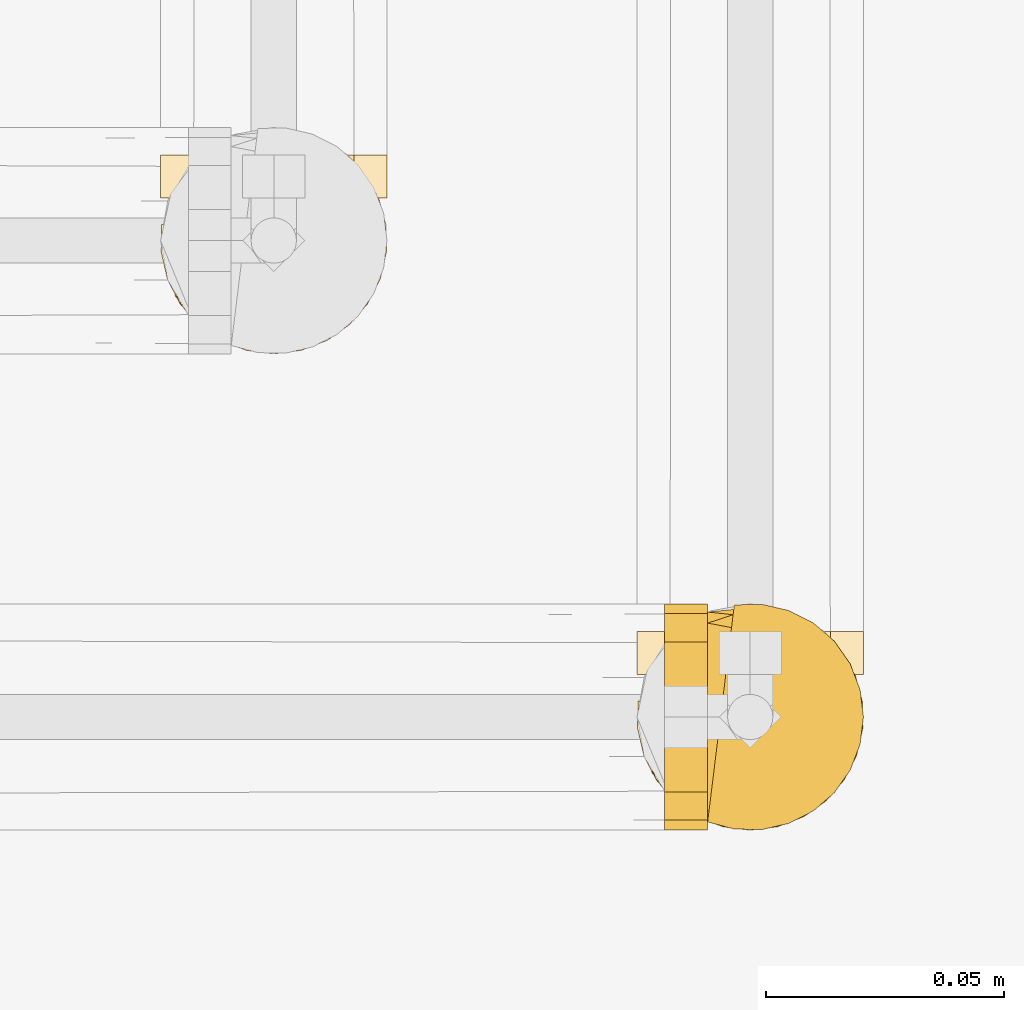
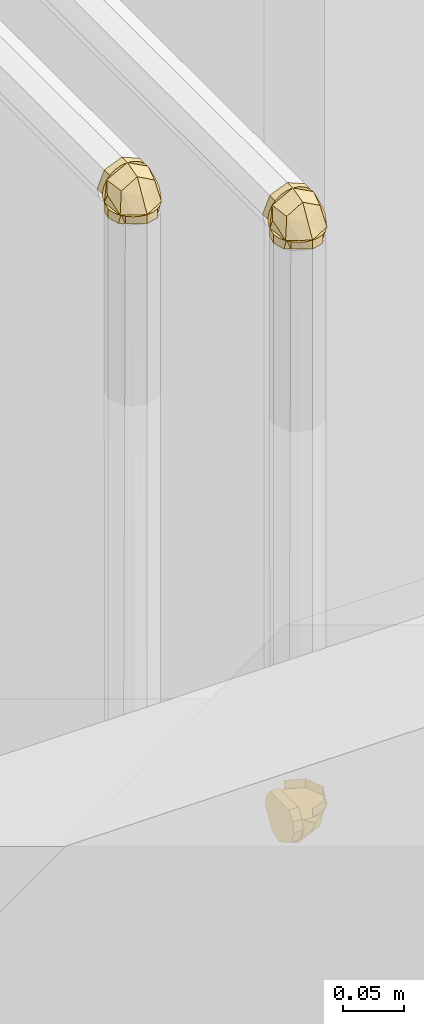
# One storey, part 330 of 652: 3 coverings.
"""IFC2X3 building model written with IfcOpenShell, lengths in millimetres."""

from ifc_helpers import new_model, entity, si_unit, converted_unit, direction, frame, origin, place, context, subcontext, project, spatial, face_set, surface_model, material, type_object, element, save


model = new_model("IFC2X3")

# Units and contexts
model_context = context("Model", 3, precision=0.01, world=frame((0.0, 0.0, 308426.39999999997)), true_north=direction((6.123233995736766e-17, 1.0)))
plan_context = context("Plan", 3, precision=0.01, world=frame((0.0, 0.0, 308426.39999999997)), true_north=direction((6.123233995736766e-17, 1.0)))
body_context = subcontext(model_context, "Body", "Model", "MODEL_VIEW")
ifc_project = project(units=[si_unit("LENGTHUNIT", "METRE", prefix="MILLI"), si_unit("AREAUNIT", "SQUARE_METRE"), si_unit("VOLUMEUNIT", "CUBIC_METRE"), converted_unit("PLANEANGLEUNIT", "DEGREE", entity("IfcPlaneAngleMeasure", 0.017453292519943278), si_unit("PLANEANGLEUNIT", "RADIAN"), dimensions=[0, 0, 0, 0, 0, 0, 0])], contexts=[model_context, plan_context])

# Site, building, storey
site_placement = place(None, origin())
site = spatial("IfcSite", under=ifc_project, at=site_placement, Name="Default", CompositionType="ELEMENT")
building_placement = place(site_placement, origin())
building = spatial("IfcBuilding", under=site, at=building_placement, CompositionType="ELEMENT")
storey_placement = place(building_placement, frame((0.0, 0.0, 1730.6999999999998)))
storey = spatial("IfcBuildingStorey", under=building, at=storey_placement, Name="EG_Produktion_FFB", CompositionType="ELEMENT", Elevation=1730.6999999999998)

# Coverings
ifc_material = material(Name="Dämmung - Armaflex-Schlauch")
covering_type = type_object("IfcCoveringType", Name="Rohrdämmung außen:Armaflex-Schlauch", PredefinedType="INSULATION")
covering_1_placement = place(storey_placement, frame((29504.64222776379, 58869.929318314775, 3280.611079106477)))
element("IfcCovering", 1, at=covering_1_placement, inside=storey, type_object=covering_type, material=ifc_material, Name="Rohrdämmung außen:Armaflex-Schlauch", ObjectType="Rohrdämmung außen:Armaflex-Schlauch", PredefinedType="INSULATION", context=body_context, shape_type="SurfaceModel", body=[
    surface_model("IfcFaceBasedSurfaceModel", [(3.3372686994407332, 34.28827223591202, 10.458420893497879), (48.885203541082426, 34.28827223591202, 16.054796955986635), (48.99253247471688, 34.28827223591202, 21.84951324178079), (47.69387779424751, 34.28827223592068, 27.4978539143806), (45.06649381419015, 34.28827223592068, 32.66381072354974), (41.26667824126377, 34.28827223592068, 37.04007144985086), (36.520474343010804, 34.28827223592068, 40.3663012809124), (31.11022409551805, 34.28827223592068, 42.444629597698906), (25.357772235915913, 34.28827223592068, 43.15142089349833), (19.605320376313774, 34.28827223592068, 42.444629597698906), (14.19507012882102, 34.28827223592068, 40.3663012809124), (9.448866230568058, 34.28827223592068, 37.04007144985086), (5.649050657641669, 34.28827223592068, 32.66381072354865), (3.0216666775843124, 34.28827223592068, 27.497853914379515), (1.7230119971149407, 34.28827223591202, 21.84951324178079), (1.8303409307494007, 34.28827223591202, 16.054796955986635), (47.37827577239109, 34.28827223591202, 10.458420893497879), (48.885203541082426, 28.691896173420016, 10.458420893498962), (48.99253247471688, 22.897179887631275, 10.458420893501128), (47.69387779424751, 17.248839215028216, 10.45842089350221), (45.06649381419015, 12.082882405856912, 10.458420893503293), (41.26667824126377, 7.706621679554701, 10.458420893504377), (36.520474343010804, 4.380391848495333, 10.458420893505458), (31.11022409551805, 2.302063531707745, 10.458420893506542), (25.357772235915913, 1.5952722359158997, 10.458420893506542), (19.605320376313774, 2.302063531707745, 10.458420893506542), (14.19507012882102, 4.380391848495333, 10.458420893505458), (9.448866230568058, 7.706621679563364, 10.458420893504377), (5.649050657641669, 12.082882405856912, 10.458420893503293), (3.0216666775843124, 17.248839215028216, 10.45842089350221), (1.7230119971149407, 22.897179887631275, 10.458420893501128), (1.8303409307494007, 28.691896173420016, 10.458420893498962), (2.9985193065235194, 19.383120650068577, 18.58073913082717), (9.498122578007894, 16.866995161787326, 30.595122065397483), (4.479824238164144, 23.313113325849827, 10.458560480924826), (15.618679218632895, 34.28918754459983, 37.968509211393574), (25.357619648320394, 17.941348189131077, 38.77136718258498), (15.502407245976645, 6.839700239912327, 10.458560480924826), (25.357619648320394, 9.141885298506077, 23.526367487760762), (2.1404321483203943, 27.205898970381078, 22.523521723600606), (4.493776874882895, 34.28918754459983, 21.561371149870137), (47.71671999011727, 19.383120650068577, 18.58073913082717), (48.574807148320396, 27.205898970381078, 22.523521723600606), (41.217116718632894, 16.866995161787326, 30.595122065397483), (35.0965600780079, 34.28918754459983, 37.968509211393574), (46.23541505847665, 23.313113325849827, 10.458560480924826), (35.0965600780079, 6.779238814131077, 10.458560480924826), (25.357619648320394, 9.769753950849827, 24.61467315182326), (46.2214624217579, 34.28918754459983, 21.561371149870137), (1.5962793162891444, 43.30724174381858, 19.388829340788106), (1.5962793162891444, 34.28918754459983, 19.388829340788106), (8.553994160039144, 34.28918754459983, 36.1912921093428), (8.553994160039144, 43.30724174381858, 36.1912921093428), (25.357619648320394, 34.28918754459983, 43.15133239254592), (25.357619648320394, 43.30724174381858, 43.15133239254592), (42.16124513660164, 34.28918754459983, 36.1912921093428), (42.16124513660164, 43.30724174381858, 36.1912921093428), (49.12128541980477, 34.28918754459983, 19.388829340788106), (49.12128541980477, 43.30724174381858, 19.388829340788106), (46.1499597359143, 20.213040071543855, 1.4386708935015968), (43.179647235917, 15.068307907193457, 1.4386708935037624), (40.20933473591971, 9.923575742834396, 1.4386708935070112), (37.239022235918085, 4.7788435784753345, 1.4386708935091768), (31.298397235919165, 3.1870579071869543, 1.4386708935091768), (25.357772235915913, 1.5952722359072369, 1.4386708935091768), (20.21304007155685, 4.565584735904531, 1.4386708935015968), (15.06830790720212, 7.535897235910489, 1.4386708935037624), (9.92357574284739, 10.50620973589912, 1.4386708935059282), (4.778843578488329, 13.476522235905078, 1.4386708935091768), (3.1870579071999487, 19.417147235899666, 1.4386708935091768), (1.5952722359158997, 25.357772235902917, 1.4386708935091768), (2.6431209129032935, 30.236452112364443, 1.4386708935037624), (3.690969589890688, 35.11513198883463, 1.4386708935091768), (6.649688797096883, 39.133276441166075, 1.4386708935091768), (9.608408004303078, 43.151420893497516, 1.4386708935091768), (41.10713646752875, 43.151420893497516, 1.4386708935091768), (44.06585567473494, 39.133276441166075, 1.4386708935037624), (47.024574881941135, 35.11513198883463, 1.4386708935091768), (48.07242355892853, 30.236452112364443, 1.4386708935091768), (49.12027223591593, 25.357772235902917, 1.4386708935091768), (42.16039712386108, 8.555147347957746, 10.458420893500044), (43.900365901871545, 12.755803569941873, 10.458420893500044), (45.64033467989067, 16.956459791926, 10.458420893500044), (47.38030345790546, 21.15711601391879, 10.458420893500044), (49.12027223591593, 25.357772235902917, 10.458420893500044), (48.07242355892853, 30.236452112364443, 10.458420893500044), (47.02457488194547, 35.11513198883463, 10.458420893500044), (43.98587506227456, 39.24189562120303, 10.458420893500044), (41.10713646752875, 43.151420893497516, 10.458420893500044), (9.60840800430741, 43.151420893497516, 10.458420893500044), (6.649688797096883, 39.133276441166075, 10.458420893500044), (3.690969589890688, 35.11513198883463, 10.458420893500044), (2.6147952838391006, 30.10457078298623, 10.458420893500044), (1.5952722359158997, 25.357772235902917, 10.458420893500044), (3.3352410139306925, 21.157116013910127, 10.458420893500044), (5.0752097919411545, 16.956459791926, 10.458420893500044), (6.815178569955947, 12.755803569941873, 10.458420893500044), (8.55514734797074, 8.555147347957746, 10.458420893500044), (12.755803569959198, 6.815178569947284, 10.458420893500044), (16.956459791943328, 5.075209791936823, 10.458420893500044), (21.157116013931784, 3.3352410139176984, 10.458420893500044), (25.357772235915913, 1.5952722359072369, 10.458420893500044), (29.55842845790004, 3.3352410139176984, 10.458420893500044), (33.759084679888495, 5.075209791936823, 10.458420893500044), (37.95974090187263, 6.815178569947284, 10.458420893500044)], [face_set([[[0, 1, 2, 3, 4, 5, 6, 7, 8, 9, 10, 11, 12, 13, 14, 15]], [[16, 17, 18, 19, 20, 21, 22, 23, 24, 25, 26, 27, 28, 29, 30, 31]], [[32, 28, 33]], [[32, 34, 28]], [[33, 35, 12]], [[35, 33, 36]], [[36, 8, 35]], [[33, 37, 38]], [[39, 12, 40]], [[32, 33, 39]], [[34, 32, 0]], [[12, 39, 33]], [[38, 36, 33]], [[0, 32, 39]], [[33, 28, 37]], [[37, 24, 38]], [[0, 39, 40]], [[41, 16, 42]], [[43, 44, 36]], [[20, 45, 41]], [[46, 43, 47]], [[44, 8, 36]], [[4, 43, 42]], [[44, 43, 4]], [[42, 16, 48]], [[20, 43, 46]], [[16, 41, 45]], [[43, 41, 42]], [[43, 36, 47]], [[47, 24, 46]], [[20, 41, 43]], [[48, 4, 42]]]), face_set([[[49, 50, 51, 52]], [[53, 54, 52, 51]], [[54, 53, 55, 56]], [[57, 58, 56, 55]]]), face_set([[[59, 60, 61, 62, 63, 64, 65, 66, 67, 68, 69, 70, 71, 72, 73, 74, 75, 76, 77, 78, 79]], [[80, 81, 82, 83, 84, 85, 86, 87, 88, 89, 90, 91, 92, 93, 94, 95, 96, 97, 98, 99, 100, 101, 102, 103, 104]], [[75, 74, 89, 88]], [[71, 70, 93, 92, 91, 72]], [[73, 72, 91, 90, 89, 74]], [[96, 67, 97]], [[64, 100, 65]], [[100, 99, 65]], [[69, 95, 94]], [[94, 93, 70]], [[67, 96, 68]], [[66, 99, 98]], [[64, 101, 100]], [[99, 66, 65]], [[70, 69, 94]], [[98, 97, 67]], [[96, 95, 68]], [[69, 68, 95]], [[66, 98, 67]], [[104, 61, 80]], [[79, 83, 59]], [[83, 82, 59]], [[63, 103, 102]], [[102, 101, 64]], [[61, 104, 62]], [[60, 82, 81]], [[79, 84, 83]], [[82, 60, 59]], [[64, 63, 102]], [[81, 80, 61]], [[104, 103, 62]], [[63, 62, 103]], [[60, 81, 61]], [[76, 75, 88, 87, 86, 77]], [[78, 77, 86, 85, 84, 79]]])]),
])
covering_2_placement = place(storey_placement, frame((29510.611079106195, 58869.92931831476, 2674.6422277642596)))
element("IfcCovering", 2, at=covering_2_placement, inside=storey, type_object=covering_type, material=ifc_material, Name="Rohrdämmung außen:Armaflex-Schlauch", ObjectType="Rohrdämmung außen:Armaflex-Schlauch", PredefinedType="INSULATION", context=body_context, shape_type="SurfaceModel", body=[
    surface_model("IfcFaceBasedSurfaceModel", [(10.458420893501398, 3.3372686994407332, 34.28827223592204), (16.054796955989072, 1.8303409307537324, 34.28827223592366), (21.849513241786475, 1.7230119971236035, 34.288272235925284), (27.4978539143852, 3.0216666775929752, 34.288272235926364), (32.663810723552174, 5.649050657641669, 34.28827223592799), (37.04007144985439, 9.44886623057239, 34.28827223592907), (40.36630128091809, 14.195070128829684, 34.28827223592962), (42.44462959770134, 19.605320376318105, 34.2882722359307), (43.15142089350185, 25.357772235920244, 34.2882722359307), (42.44462959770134, 31.110224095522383, 34.2882722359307), (40.36630128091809, 36.520474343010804, 34.28827223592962), (37.04007144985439, 41.266678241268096, 34.28827223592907), (32.663810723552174, 45.066493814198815, 34.28827223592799), (27.4978539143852, 47.69387779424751, 34.288272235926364), (21.849513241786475, 48.99253247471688, 34.288272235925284), (16.054796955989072, 48.88520354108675, 34.28827223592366), (10.458420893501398, 47.37827577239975, 34.28827223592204), (10.458420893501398, 48.88520354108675, 28.691896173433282), (10.45842089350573, 48.99253247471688, 22.897179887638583), (10.45842089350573, 47.69387779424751, 17.248839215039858), (10.45842089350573, 45.066493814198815, 12.08288240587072), (10.45842089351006, 41.266678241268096, 7.706621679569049), (10.45842089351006, 36.520474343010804, 4.3803918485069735), (10.45842089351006, 31.110224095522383, 2.3020635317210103), (10.45842089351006, 25.357772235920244, 1.5952722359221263), (10.45842089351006, 19.605320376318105, 2.3020635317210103), (10.45842089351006, 14.195070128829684, 4.3803918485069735), (10.45842089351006, 9.44886623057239, 7.706621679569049), (10.45842089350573, 5.649050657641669, 12.08288240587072), (10.45842089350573, 3.0216666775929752, 17.248839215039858), (10.45842089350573, 1.7230119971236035, 22.897179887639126), (10.458420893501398, 1.8303409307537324, 28.691896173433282), (18.579515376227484, 2.9980742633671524, 19.38129671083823), (30.59506103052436, 9.500002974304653, 16.867205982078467), (10.459080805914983, 4.481704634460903, 23.31448686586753), (37.96902953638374, 15.615908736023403, 34.288235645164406), (38.77130614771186, 25.359500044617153, 17.941849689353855), (10.459080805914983, 15.504287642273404, 6.839039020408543), (23.52572509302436, 25.359500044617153, 9.14006135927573), (22.523460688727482, 2.1423125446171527, 27.2081445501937), (21.560728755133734, 4.491006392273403, 34.288235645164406), (18.579515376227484, 47.7162749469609, 19.38129671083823), (22.523460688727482, 48.57668754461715, 27.2081445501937), (30.59506103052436, 41.2143462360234, 16.867205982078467), (37.96902953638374, 35.09844047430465, 34.288235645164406), (10.459080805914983, 46.2372954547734, 23.31448686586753), (10.459080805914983, 35.09844047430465, 6.778286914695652), (24.61403075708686, 25.359500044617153, 9.768511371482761), (21.560728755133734, 46.223342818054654, 34.288235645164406), (19.388768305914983, 1.5935088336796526, 43.308033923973), (19.388768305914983, 1.5935088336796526, 34.288235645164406), (36.192393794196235, 8.555874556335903, 34.288235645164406), (36.192393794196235, 8.555874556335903, 43.308033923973), (43.152434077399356, 25.359500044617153, 34.288235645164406), (43.152434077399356, 25.359500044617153, 43.308033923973), (36.192393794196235, 42.15847465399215, 34.288235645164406), (36.192393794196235, 42.15847465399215, 43.308033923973), (19.388768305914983, 49.1208403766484, 34.288235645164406), (19.388768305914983, 49.1208403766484, 43.308033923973), (1.4386708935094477, 46.14995973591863, 20.213040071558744), (1.4386708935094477, 43.179647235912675, 15.06830790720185), (1.438670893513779, 40.20933473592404, 9.923575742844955), (1.438670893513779, 37.239022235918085, 4.7788435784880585), (1.438670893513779, 31.298397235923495, 3.1870579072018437), (1.438670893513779, 25.357772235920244, 1.595272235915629), (1.438670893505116, 20.21304007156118, 4.565584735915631), (1.4386708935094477, 15.068307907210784, 7.535897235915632), (1.4386708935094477, 9.923575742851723, 10.506209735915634), (1.438670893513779, 4.778843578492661, 13.476522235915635), (1.438670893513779, 3.1870579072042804, 19.41714723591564), (1.438670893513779, 1.5952722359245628, 25.35777223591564), (1.4386708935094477, 2.643120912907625, 30.23645211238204), (1.438670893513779, 3.690969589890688, 35.11513198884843), (1.438670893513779, 6.649688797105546, 39.13327644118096), (1.438670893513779, 9.608408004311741, 43.15142089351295), (1.438670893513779, 41.10713646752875, 43.15142089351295), (1.4386708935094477, 44.06585567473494, 39.13327644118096), (1.438670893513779, 47.024574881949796, 35.11513198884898), (1.438670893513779, 48.07242355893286, 30.23645211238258), (1.438670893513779, 49.12027223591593, 25.35777223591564), (10.458420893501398, 42.160397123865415, 8.55514734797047), (10.458420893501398, 43.90036590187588, 12.755803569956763), (10.458420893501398, 45.64033467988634, 16.956459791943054), (10.45842089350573, 47.38030345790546, 21.15711601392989), (10.458420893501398, 49.12027223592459, 25.35777223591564), (10.458420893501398, 48.07242355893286, 30.23645211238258), (10.458420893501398, 47.024574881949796, 35.11513198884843), (10.458420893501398, 43.985875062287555, 39.241895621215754), (10.458420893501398, 41.10713646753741, 43.15142089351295), (10.458420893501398, 9.608408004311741, 43.15142089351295), (10.458420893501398, 6.649688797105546, 39.13327644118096), (10.458420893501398, 3.6909695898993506, 35.11513198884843), (10.458420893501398, 2.6147952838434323, 30.10457078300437), (10.458420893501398, 1.5952722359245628, 25.35777223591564), (10.458420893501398, 3.335241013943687, 21.157116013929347), (10.458420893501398, 5.075209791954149, 16.956459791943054), (10.458420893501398, 6.81517856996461, 12.755803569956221), (10.458420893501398, 8.55514734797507, 8.555147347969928), (10.458420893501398, 12.755803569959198, 6.8151785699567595), (10.458420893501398, 16.956459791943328, 5.075209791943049), (10.458420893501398, 21.157116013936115, 3.335241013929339), (10.458420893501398, 25.357772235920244, 1.595272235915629), (10.458420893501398, 29.558428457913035, 3.335241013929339), (10.458420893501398, 33.759084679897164, 5.075209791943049), (10.458420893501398, 37.95974090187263, 6.8151785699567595)], [face_set([[[0, 1, 2, 3, 4, 5, 6, 7, 8, 9, 10, 11, 12, 13, 14, 15]], [[16, 17, 18, 19, 20, 21, 22, 23, 24, 25, 26, 27, 28, 29, 30, 31]], [[32, 28, 33]], [[32, 34, 28]], [[33, 35, 4]], [[35, 33, 36]], [[36, 8, 35]], [[33, 37, 38]], [[39, 4, 40]], [[32, 33, 39]], [[34, 32, 0]], [[4, 39, 33]], [[38, 36, 33]], [[0, 32, 39]], [[33, 28, 37]], [[37, 24, 38]], [[0, 39, 40]], [[41, 16, 42]], [[43, 44, 36]], [[20, 45, 41]], [[46, 43, 47]], [[44, 8, 36]], [[12, 43, 42]], [[44, 43, 12]], [[42, 16, 48]], [[20, 43, 46]], [[16, 41, 45]], [[43, 41, 42]], [[43, 36, 47]], [[47, 24, 46]], [[20, 41, 43]], [[48, 12, 42]]]), face_set([[[49, 50, 51, 52]], [[53, 54, 52, 51]], [[54, 53, 55, 56]], [[57, 58, 56, 55]]]), face_set([[[59, 60, 61, 62, 63, 64, 65, 66, 67, 68, 69, 70, 71, 72, 73, 74, 75, 76, 77, 78, 79]], [[80, 81, 82, 83, 84, 85, 86, 87, 88, 89, 90, 91, 92, 93, 94, 95, 96, 97, 98, 99, 100, 101, 102, 103, 104]], [[75, 74, 89, 88]], [[71, 70, 93, 92, 91, 72]], [[73, 72, 91, 90, 89, 74]], [[96, 67, 97]], [[64, 100, 65]], [[100, 99, 65]], [[69, 95, 94]], [[94, 93, 70]], [[67, 96, 68]], [[66, 99, 98]], [[64, 101, 100]], [[99, 66, 65]], [[70, 69, 94]], [[98, 97, 67]], [[96, 95, 68]], [[69, 68, 95]], [[66, 98, 67]], [[104, 61, 80]], [[79, 83, 59]], [[83, 82, 59]], [[63, 103, 102]], [[102, 101, 64]], [[61, 104, 62]], [[60, 82, 81]], [[79, 84, 83]], [[82, 60, 59]], [[64, 63, 102]], [[81, 80, 61]], [[104, 103, 62]], [[63, 62, 103]], [[60, 81, 61]], [[76, 75, 88, 87, 86, 77]], [[78, 77, 86, 85, 84, 79]]])]),
])
covering_3_placement = place(storey_placement, frame((29404.64222776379, 58969.929318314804, 3280.611079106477)))
element("IfcCovering", 3, at=covering_3_placement, inside=storey, type_object=covering_type, material=ifc_material, Name="Rohrdämmung außen:Armaflex-Schlauch", ObjectType="Rohrdämmung außen:Armaflex-Schlauch", PredefinedType="INSULATION", context=body_context, shape_type="SurfaceModel", body=[
    surface_model("IfcFaceBasedSurfaceModel", [(3.3372686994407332, 34.28827223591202, 10.458420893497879), (48.885203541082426, 34.28827223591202, 16.054796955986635), (48.99253247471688, 34.28827223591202, 21.84951324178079), (47.69387779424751, 34.28827223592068, 27.4978539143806), (45.06649381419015, 34.28827223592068, 32.66381072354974), (41.26667824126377, 34.28827223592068, 37.04007144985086), (36.520474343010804, 34.28827223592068, 40.3663012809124), (31.11022409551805, 34.28827223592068, 42.444629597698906), (25.357772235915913, 34.28827223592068, 43.15142089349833), (19.605320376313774, 34.28827223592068, 42.444629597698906), (14.19507012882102, 34.28827223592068, 40.3663012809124), (9.448866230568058, 34.28827223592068, 37.04007144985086), (5.649050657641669, 34.28827223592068, 32.66381072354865), (3.0216666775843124, 34.28827223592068, 27.497853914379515), (1.7230119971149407, 34.28827223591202, 21.84951324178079), (1.8303409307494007, 34.28827223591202, 16.054796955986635), (47.37827577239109, 34.28827223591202, 10.458420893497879), (48.885203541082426, 28.691896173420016, 10.458420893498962), (48.99253247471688, 22.897179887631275, 10.458420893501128), (47.69387779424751, 17.248839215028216, 10.45842089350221), (45.06649381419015, 12.082882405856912, 10.458420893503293), (41.26667824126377, 7.706621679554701, 10.458420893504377), (36.520474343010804, 4.380391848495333, 10.458420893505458), (31.11022409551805, 2.302063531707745, 10.458420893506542), (25.357772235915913, 1.5952722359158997, 10.458420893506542), (19.605320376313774, 2.302063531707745, 10.458420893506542), (14.19507012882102, 4.380391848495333, 10.458420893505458), (9.448866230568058, 7.706621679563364, 10.458420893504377), (5.649050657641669, 12.082882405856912, 10.458420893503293), (3.0216666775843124, 17.248839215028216, 10.45842089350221), (1.7230119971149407, 22.897179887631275, 10.458420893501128), (1.8303409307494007, 28.691896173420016, 10.458420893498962), (2.9976465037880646, 19.38166801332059, 18.58073913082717), (9.499575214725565, 16.865542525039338, 30.595122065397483), (4.47895143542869, 23.316311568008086, 10.458560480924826), (15.61780641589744, 34.287734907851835, 37.968509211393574), (25.35674684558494, 17.93989555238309, 38.77136718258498), (15.503859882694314, 6.838247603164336, 10.458560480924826), (25.35674684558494, 9.140432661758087, 23.526367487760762), (2.1395593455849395, 27.209097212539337, 22.523521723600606), (4.492904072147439, 34.287734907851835, 21.561371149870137), (47.71584718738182, 19.38166801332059, 18.58073913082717), (48.57625978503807, 27.209097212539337, 22.523521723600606), (41.216243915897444, 16.865542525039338, 30.595122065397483), (35.09801271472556, 34.287734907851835, 37.968509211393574), (46.23686769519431, 23.316311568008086, 10.458560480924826), (35.09801271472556, 6.777786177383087, 10.458560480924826), (25.35674684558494, 9.768301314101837, 24.61467315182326), (46.222915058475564, 34.287734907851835, 21.561371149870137), (1.5954065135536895, 43.30578910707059, 19.388829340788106), (1.5954065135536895, 34.287734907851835, 19.388829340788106), (8.555446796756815, 34.287734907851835, 36.1912921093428), (8.555446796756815, 43.30578910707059, 36.1912921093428), (25.35674684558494, 34.287734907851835, 43.15133239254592), (25.35674684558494, 43.30578910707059, 43.15133239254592), (42.16037233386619, 34.287734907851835, 36.1912921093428), (42.16037233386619, 43.30578910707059, 36.1912921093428), (49.12041261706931, 34.287734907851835, 19.388829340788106), (49.12041261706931, 43.30578910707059, 19.388829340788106), (46.1499597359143, 20.21304007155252, 1.4386708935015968), (43.179647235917, 15.068307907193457, 1.4386708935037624), (40.20933473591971, 9.923575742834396, 1.4386708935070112), (37.239022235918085, 4.7788435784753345, 1.4386708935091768), (31.298397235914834, 3.1870579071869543, 1.4386708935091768), (25.357772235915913, 1.5952722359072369, 1.4386708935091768), (20.21304007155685, 4.565584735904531, 1.4386708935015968), (15.06830790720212, 7.535897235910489, 1.4386708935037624), (9.92357574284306, 10.506209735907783, 1.4386708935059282), (4.778843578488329, 13.476522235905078, 1.4386708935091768), (3.1870579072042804, 19.417147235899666, 1.4386708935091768), (1.5952722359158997, 25.357772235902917, 1.4386708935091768), (2.6431209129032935, 30.236452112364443, 1.4386708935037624), (3.690969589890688, 35.11513198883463, 1.4386708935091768), (6.649688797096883, 39.133276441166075, 1.4386708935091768), (9.608408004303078, 43.151420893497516, 1.4386708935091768), (41.10713646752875, 43.151420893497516, 1.4386708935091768), (44.06585567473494, 39.133276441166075, 1.4386708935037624), (47.024574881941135, 35.11513198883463, 1.4386708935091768), (48.07242355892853, 30.236452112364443, 1.4386708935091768), (49.12027223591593, 25.357772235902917, 1.4386708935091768), (42.16039712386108, 8.555147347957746, 10.458420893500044), (43.900365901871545, 12.755803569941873, 10.458420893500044), (45.64033467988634, 16.956459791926, 10.458420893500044), (47.38030345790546, 21.15711601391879, 10.458420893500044), (49.12027223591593, 25.357772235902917, 10.458420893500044), (48.07242355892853, 30.236452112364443, 10.458420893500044), (47.02457488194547, 35.11513198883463, 10.458420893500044), (43.985875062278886, 39.24189562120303, 10.458420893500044), (41.10713646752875, 43.151420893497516, 10.458420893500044), (9.60840800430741, 43.151420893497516, 10.458420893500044), (6.649688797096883, 39.133276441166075, 10.458420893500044), (3.690969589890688, 35.11513198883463, 10.458420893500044), (2.6147952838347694, 30.10457078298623, 10.458420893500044), (1.5952722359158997, 25.357772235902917, 10.458420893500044), (3.3352410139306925, 21.15711601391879, 10.458420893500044), (5.075209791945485, 16.956459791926, 10.458420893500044), (6.815178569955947, 12.755803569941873, 10.458420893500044), (8.55514734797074, 8.555147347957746, 10.458420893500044), (12.755803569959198, 6.815178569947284, 10.458420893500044), (16.956459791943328, 5.075209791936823, 10.458420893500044), (21.157116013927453, 3.3352410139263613, 10.458420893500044), (25.357772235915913, 1.5952722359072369, 10.458420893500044), (29.55842845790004, 3.3352410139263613, 10.458420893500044), (33.759084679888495, 5.075209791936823, 10.458420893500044), (37.959740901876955, 6.815178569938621, 10.458420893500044)], [face_set([[[0, 1, 2, 3, 4, 5, 6, 7, 8, 9, 10, 11, 12, 13, 14, 15]], [[16, 17, 18, 19, 20, 21, 22, 23, 24, 25, 26, 27, 28, 29, 30, 31]], [[32, 28, 33]], [[32, 34, 28]], [[33, 35, 12]], [[35, 33, 36]], [[36, 8, 35]], [[33, 37, 38]], [[39, 12, 40]], [[32, 33, 39]], [[34, 32, 0]], [[12, 39, 33]], [[38, 36, 33]], [[0, 32, 39]], [[33, 28, 37]], [[37, 24, 38]], [[0, 39, 40]], [[41, 16, 42]], [[43, 44, 36]], [[20, 45, 41]], [[46, 43, 47]], [[44, 8, 36]], [[4, 43, 42]], [[44, 43, 4]], [[42, 16, 48]], [[20, 43, 46]], [[16, 41, 45]], [[43, 41, 42]], [[43, 36, 47]], [[47, 24, 46]], [[20, 41, 43]], [[48, 4, 42]]]), face_set([[[49, 50, 51, 52]], [[53, 54, 52, 51]], [[54, 53, 55, 56]], [[57, 58, 56, 55]]]), face_set([[[59, 60, 61, 62, 63, 64, 65, 66, 67, 68, 69, 70, 71, 72, 73, 74, 75, 76, 77, 78, 79]], [[80, 81, 82, 83, 84, 85, 86, 87, 88, 89, 90, 91, 92, 93, 94, 95, 96, 97, 98, 99, 100, 101, 102, 103, 104]], [[75, 74, 89, 88]], [[71, 70, 93, 92, 91, 72]], [[73, 72, 91, 90, 89, 74]], [[96, 67, 97]], [[64, 100, 65]], [[100, 99, 65]], [[69, 95, 94]], [[94, 93, 70]], [[67, 96, 68]], [[66, 99, 98]], [[64, 101, 100]], [[99, 66, 65]], [[70, 69, 94]], [[98, 97, 67]], [[96, 95, 68]], [[69, 68, 95]], [[66, 98, 67]], [[104, 61, 80]], [[79, 83, 59]], [[83, 82, 59]], [[63, 103, 102]], [[102, 101, 64]], [[61, 104, 62]], [[60, 82, 81]], [[79, 84, 83]], [[82, 60, 59]], [[64, 63, 102]], [[81, 80, 61]], [[104, 103, 62]], [[63, 62, 103]], [[60, 81, 61]], [[76, 75, 88, 87, 86, 77]], [[78, 77, 86, 85, 84, 79]]])]),
])

save(model, "model.ifc")
